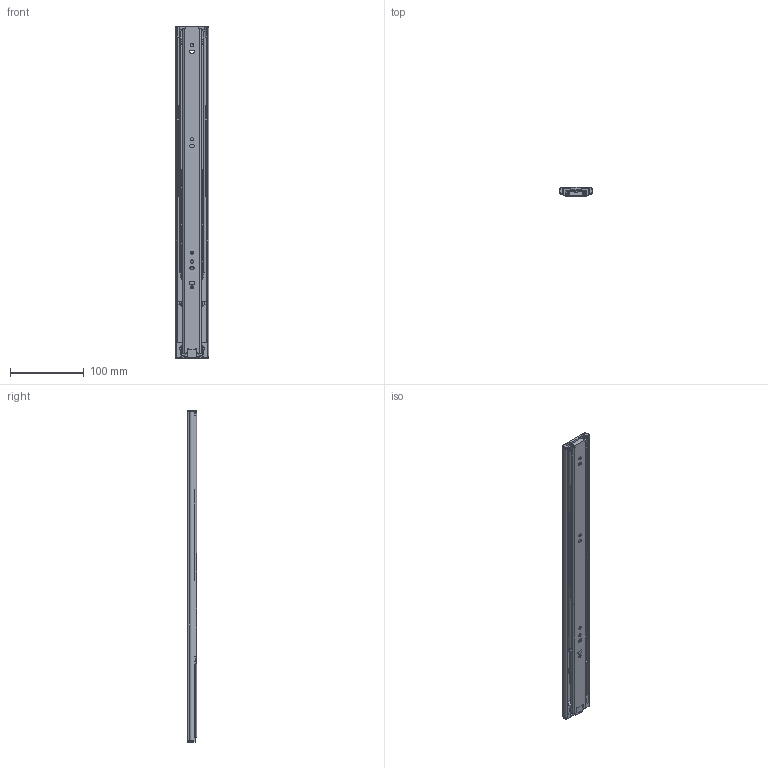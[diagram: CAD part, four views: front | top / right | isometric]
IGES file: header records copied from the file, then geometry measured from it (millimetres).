
Global section: file name: No Iges File Name specified; native system: Autodesk Inventor 2010; preprocessor: AutoDesk Inventor Iges Exporter R2010; author: jennes; date: 20110120.112903; units: millimetre
Bounding box: 45.98 x 12.5 x 451.1 mm (x, y, z)
Volume: 103176.9 mm3; surface area: 162666.3 mm2
Topology: 53 solids, 53 shells, 1764 faces, 5130 edges, 3221 vertices
Faces by surface type: plane 945, cylinder 375, revolution 245, sphere 92, torus 59, bspline 48
